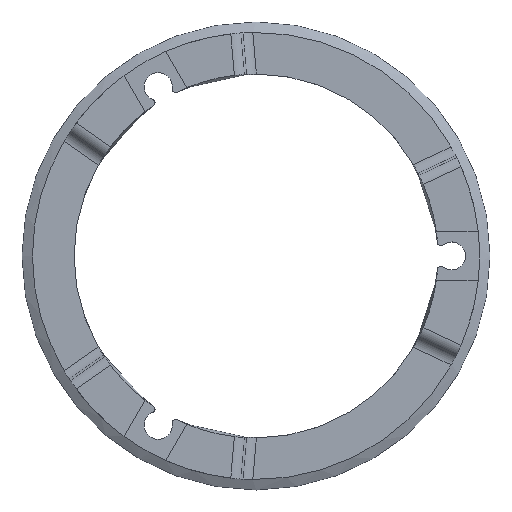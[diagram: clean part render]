
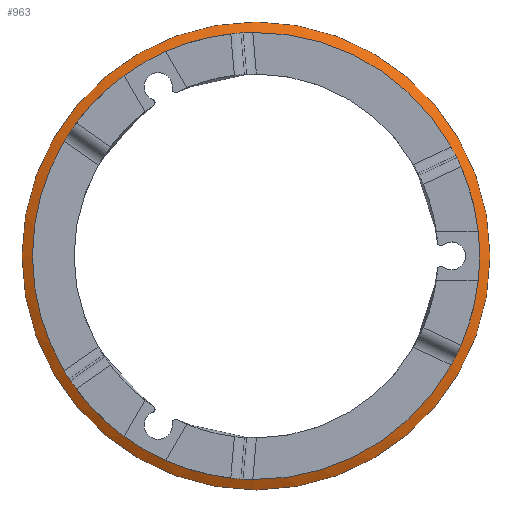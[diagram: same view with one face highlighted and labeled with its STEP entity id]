
A CAD part, top view. The second image highlights one B-rep face of the part: STEP entity #963.
In plain terms, the highlighted conical face has half-angle 63.435 degrees and reference radius 32 mm.
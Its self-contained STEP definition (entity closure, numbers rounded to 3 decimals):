
#12=CONICAL_SURFACE('',#1067,32.,1.107);
#80=CIRCLE('',#1026,32.);
#86=CIRCLE('',#1033,32.);
#88=CIRCLE('',#1036,32.);
#94=CIRCLE('',#1043,32.);
#97=CIRCLE('',#1047,32.);
#98=CIRCLE('',#1049,32.);
#110=CIRCLE('',#1068,33.5);
#111=CIRCLE('',#1069,32.);
#112=CIRCLE('',#1070,32.);
#113=CIRCLE('',#1071,32.);
#114=CIRCLE('',#1072,32.);
#115=CIRCLE('',#1073,32.);
#116=CIRCLE('',#1074,32.);
#204=ORIENTED_EDGE('',*,*,#502,.F.);
#205=ORIENTED_EDGE('',*,*,#503,.T.);
#206=ORIENTED_EDGE('',*,*,#469,.T.);
#207=ORIENTED_EDGE('',*,*,#504,.F.);
#208=ORIENTED_EDGE('',*,*,#466,.T.);
#209=ORIENTED_EDGE('',*,*,#505,.T.);
#210=ORIENTED_EDGE('',*,*,#441,.T.);
#211=ORIENTED_EDGE('',*,*,#506,.T.);
#212=ORIENTED_EDGE('',*,*,#448,.T.);
#213=ORIENTED_EDGE('',*,*,#507,.T.);
#214=ORIENTED_EDGE('',*,*,#453,.T.);
#215=ORIENTED_EDGE('',*,*,#508,.T.);
#216=ORIENTED_EDGE('',*,*,#460,.T.);
#441=EDGE_CURVE('',#594,#592,#80,.T.);
#448=EDGE_CURVE('',#600,#601,#86,.T.);
#453=EDGE_CURVE('',#606,#604,#88,.T.);
#460=EDGE_CURVE('',#612,#613,#94,.T.);
#466=EDGE_CURVE('',#619,#618,#97,.T.);
#469=EDGE_CURVE('',#622,#620,#98,.T.);
#502=EDGE_CURVE('',#648,#648,#110,.T.);
#503=EDGE_CURVE('',#613,#622,#111,.T.);
#504=EDGE_CURVE('',#619,#620,#112,.T.);
#505=EDGE_CURVE('',#618,#594,#113,.T.);
#506=EDGE_CURVE('',#592,#600,#114,.T.);
#507=EDGE_CURVE('',#601,#606,#115,.T.);
#508=EDGE_CURVE('',#604,#612,#116,.T.);
#592=VERTEX_POINT('',#1465);
#594=VERTEX_POINT('',#1468);
#600=VERTEX_POINT('',#1482);
#601=VERTEX_POINT('',#1483);
#604=VERTEX_POINT('',#1491);
#606=VERTEX_POINT('',#1494);
#612=VERTEX_POINT('',#1508);
#613=VERTEX_POINT('',#1509);
#618=VERTEX_POINT('',#1520);
#619=VERTEX_POINT('',#1522);
#620=VERTEX_POINT('',#1526);
#622=VERTEX_POINT('',#1529);
#648=VERTEX_POINT('',#1615);
#818=EDGE_LOOP('',(#204));
#819=EDGE_LOOP('',(#205,#206,#207,#208,#209,#210,#211,#212,#213,#214,#215,
#216));
#878=FACE_BOUND('',#818,.T.);
#879=FACE_BOUND('',#819,.T.);
#963=ADVANCED_FACE('',(#878,#879),#12,.T.);
#1026=AXIS2_PLACEMENT_3D('',#1467,#1155,#1156);
#1033=AXIS2_PLACEMENT_3D('',#1481,#1170,#1171);
#1036=AXIS2_PLACEMENT_3D('',#1493,#1179,#1180);
#1043=AXIS2_PLACEMENT_3D('',#1507,#1194,#1195);
#1047=AXIS2_PLACEMENT_3D('',#1521,#1205,#1206);
#1049=AXIS2_PLACEMENT_3D('',#1528,#1211,#1212);
#1067=AXIS2_PLACEMENT_3D('',#1613,#1256,#1257);
#1068=AXIS2_PLACEMENT_3D('',#1614,#1258,#1259);
#1069=AXIS2_PLACEMENT_3D('',#1616,#1260,#1261);
#1070=AXIS2_PLACEMENT_3D('',#1617,#1262,#1263);
#1071=AXIS2_PLACEMENT_3D('',#1618,#1264,#1265);
#1072=AXIS2_PLACEMENT_3D('',#1619,#1266,#1267);
#1073=AXIS2_PLACEMENT_3D('',#1620,#1268,#1269);
#1074=AXIS2_PLACEMENT_3D('',#1621,#1270,#1271);
#1155=DIRECTION('',(0.,0.,-1.));
#1156=DIRECTION('',(-1.,0.,0.));
#1170=DIRECTION('',(0.,0.,-1.));
#1171=DIRECTION('',(-1.,0.,0.));
#1179=DIRECTION('',(0.,0.,-1.));
#1180=DIRECTION('',(-1.,0.,0.));
#1194=DIRECTION('',(0.,0.,-1.));
#1195=DIRECTION('',(-1.,0.,0.));
#1205=DIRECTION('',(0.,0.,-1.));
#1206=DIRECTION('',(-1.,0.,0.));
#1211=DIRECTION('',(0.,0.,-1.));
#1212=DIRECTION('',(-1.,0.,0.));
#1256=DIRECTION('',(0.,0.,-1.));
#1257=DIRECTION('',(-1.,0.,0.));
#1258=DIRECTION('',(0.,0.,-1.));
#1259=DIRECTION('',(-1.,0.,0.));
#1260=DIRECTION('',(0.,0.,-1.));
#1261=DIRECTION('',(-1.,0.,0.));
#1262=DIRECTION('',(0.,0.,1.));
#1263=DIRECTION('',(-1.,0.,0.));
#1264=DIRECTION('',(0.,0.,-1.));
#1265=DIRECTION('',(-1.,0.,0.));
#1266=DIRECTION('',(0.,0.,-1.));
#1267=DIRECTION('',(-1.,0.,0.));
#1268=DIRECTION('',(0.,0.,-1.));
#1269=DIRECTION('',(-1.,0.,0.));
#1270=DIRECTION('',(0.,0.,-1.));
#1271=DIRECTION('',(-1.,0.,0.));
#1465=CARTESIAN_POINT('',(-18.895,-25.826,1.5));
#1467=CARTESIAN_POINT('',(0.,0.,1.5));
#1468=CARTESIAN_POINT('',(-12.919,-29.276,1.5));
#1481=CARTESIAN_POINT('',(0.,0.,1.5));
#1482=CARTESIAN_POINT('',(-27.479,-16.398,1.5));
#1483=CARTESIAN_POINT('',(-27.479,16.398,1.5));
#1491=CARTESIAN_POINT('',(-12.919,29.276,1.5));
#1493=CARTESIAN_POINT('',(0.,0.,1.5));
#1494=CARTESIAN_POINT('',(-18.895,25.826,1.5));
#1507=CARTESIAN_POINT('',(0.,0.,1.5));
#1508=CARTESIAN_POINT('',(-0.462,31.997,1.5));
#1509=CARTESIAN_POINT('',(27.941,15.598,1.5));
#1520=CARTESIAN_POINT('',(-0.462,-31.997,1.5));
#1521=CARTESIAN_POINT('',(0.,0.,1.5));
#1522=CARTESIAN_POINT('',(27.941,-15.598,1.5));
#1526=CARTESIAN_POINT('',(31.813,-3.45,1.5));
#1528=CARTESIAN_POINT('',(0.,0.,1.5));
#1529=CARTESIAN_POINT('',(31.813,3.45,1.5));
#1613=CARTESIAN_POINT('',(0.,0.,1.5));
#1614=CARTESIAN_POINT('',(0.,0.,0.75));
#1615=CARTESIAN_POINT('',(-33.5,0.,0.75));
#1616=CARTESIAN_POINT('',(0.,0.,1.5));
#1617=CARTESIAN_POINT('',(0.,0.,1.5));
#1618=CARTESIAN_POINT('',(0.,0.,1.5));
#1619=CARTESIAN_POINT('',(0.,0.,1.5));
#1620=CARTESIAN_POINT('',(0.,0.,1.5));
#1621=CARTESIAN_POINT('',(0.,0.,1.5));
